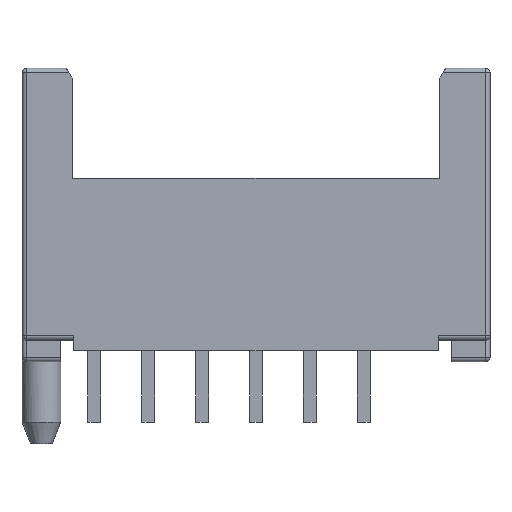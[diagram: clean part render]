
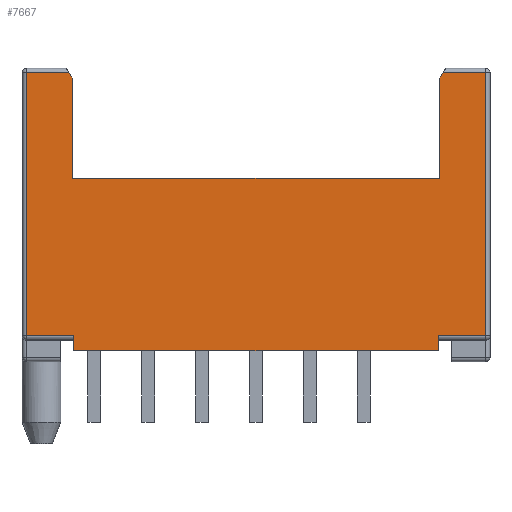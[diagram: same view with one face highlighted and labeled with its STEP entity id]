
A CAD part, front view. The second image highlights one B-rep face of the part: STEP entity #7667.
In plain terms, the highlighted planar face has unit normal (0, -1, 0).
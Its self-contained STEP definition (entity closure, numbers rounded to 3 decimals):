
#725=DIRECTION('',(1.,0.,0.));
#726=VECTOR('',#725,16.9);
#727=CARTESIAN_POINT('',(-8.45,-4.6,-13.1));
#728=LINE('',#727,#726);
#1748=DIRECTION('',(1.,0.,0.));
#1749=VECTOR('',#1748,1.977);
#1750=CARTESIAN_POINT('',(8.673,-4.6,-0.2));
#1751=LINE('',#1750,#1749);
#1752=DIRECTION('',(0.,0.,-1.));
#1753=VECTOR('',#1752,12.2);
#1754=CARTESIAN_POINT('',(10.65,-4.6,-0.2));
#1755=LINE('',#1754,#1753);
#1756=DIRECTION('',(1.,0.,0.));
#1757=VECTOR('',#1756,2.2);
#1758=CARTESIAN_POINT('',(8.45,-4.6,-12.4));
#1759=LINE('',#1758,#1757);
#1760=DIRECTION('',(1.,0.,0.));
#1761=VECTOR('',#1760,2.2);
#1762=CARTESIAN_POINT('',(-10.65,-4.6,-12.4));
#1763=LINE('',#1762,#1761);
#1764=DIRECTION('',(0.,0.,-1.));
#1765=VECTOR('',#1764,12.2);
#1766=CARTESIAN_POINT('',(-10.65,-4.6,-0.2));
#1767=LINE('',#1766,#1765);
#1768=DIRECTION('',(1.,0.,0.));
#1769=VECTOR('',#1768,1.977);
#1770=CARTESIAN_POINT('',(-10.65,-4.6,-0.2));
#1771=LINE('',#1770,#1769);
#1772=DIRECTION('',(-0.5,0.,0.866));
#1773=VECTOR('',#1772,0.346);
#1774=CARTESIAN_POINT('',(-8.5,-4.6,-0.5));
#1775=LINE('',#1774,#1773);
#1776=DIRECTION('',(0.,0.,-1.));
#1777=VECTOR('',#1776,4.6);
#1778=CARTESIAN_POINT('',(-8.5,-4.6,-0.5));
#1779=LINE('',#1778,#1777);
#1780=DIRECTION('',(1.,0.,0.));
#1781=VECTOR('',#1780,17.);
#1782=CARTESIAN_POINT('',(-8.5,-4.6,-5.1));
#1783=LINE('',#1782,#1781);
#1784=DIRECTION('',(0.,0.,-1.));
#1785=VECTOR('',#1784,4.6);
#1786=CARTESIAN_POINT('',(8.5,-4.6,-0.5));
#1787=LINE('',#1786,#1785);
#1788=DIRECTION('',(-0.5,0.,-0.866));
#1789=VECTOR('',#1788,0.346);
#1790=CARTESIAN_POINT('',(8.673,-4.6,-0.2));
#1791=LINE('',#1790,#1789);
#1792=CARTESIAN_POINT('',(8.673,-4.6,-0.2));
#1812=DIRECTION('',(0.,0.,1.));
#1813=VECTOR('',#1812,0.7);
#1814=CARTESIAN_POINT('',(8.45,-4.6,-13.1));
#1815=LINE('',#1814,#1813);
#1816=DIRECTION('',(0.,0.,-1.));
#1817=VECTOR('',#1816,0.7);
#1818=CARTESIAN_POINT('',(-8.45,-4.6,-12.4));
#1819=LINE('',#1818,#1817);
#1838=CARTESIAN_POINT('',(-8.673,-4.6,-0.2));
#4884=CARTESIAN_POINT('',(-8.45,-4.6,-13.1));
#4886=VERTEX_POINT('',#4884);
#4888=CARTESIAN_POINT('',(8.45,-4.6,-13.1));
#4890=VERTEX_POINT('',#4888);
#4968=CARTESIAN_POINT('',(-10.65,-4.6,-12.4));
#4969=CARTESIAN_POINT('',(-8.45,-4.6,-12.4));
#4970=VERTEX_POINT('',#4968);
#4971=VERTEX_POINT('',#4969);
#5052=CARTESIAN_POINT('',(8.45,-4.6,-12.4));
#5053=CARTESIAN_POINT('',(10.65,-4.6,-12.4));
#5054=VERTEX_POINT('',#5052);
#5055=VERTEX_POINT('',#5053);
#5088=CARTESIAN_POINT('',(-8.5,-4.6,-5.1));
#5089=CARTESIAN_POINT('',(8.5,-4.6,-5.1));
#5090=VERTEX_POINT('',#5088);
#5091=VERTEX_POINT('',#5089);
#5160=CARTESIAN_POINT('',(-8.5,-4.6,-0.5));
#5162=VERTEX_POINT('',#5160);
#5198=CARTESIAN_POINT('',(8.5,-4.6,-0.5));
#5199=VERTEX_POINT('',#5198);
#5212=CARTESIAN_POINT('',(10.65,-4.6,-0.2));
#5213=VERTEX_POINT('',#5212);
#5214=VERTEX_POINT('',#1792);
#5217=VERTEX_POINT('',#1838);
#5218=CARTESIAN_POINT('',(-10.65,-4.6,-0.2));
#5219=VERTEX_POINT('',#5218);
#7638=CARTESIAN_POINT('',(-10.85,-4.6,0.));
#7639=DIRECTION('',(0.,-1.,0.));
#7640=DIRECTION('',(1.,0.,0.));
#7641=AXIS2_PLACEMENT_3D('',#7638,#7639,#7640);
#7642=PLANE('',#7641);
#7644=ORIENTED_EDGE('',*,*,#7643,.T.);
#7645=ORIENTED_EDGE('',*,*,#7438,.T.);
#7647=ORIENTED_EDGE('',*,*,#7646,.F.);
#7649=ORIENTED_EDGE('',*,*,#7648,.F.);
#7650=ORIENTED_EDGE('',*,*,#6726,.F.);
#7652=ORIENTED_EDGE('',*,*,#7651,.F.);
#7653=ORIENTED_EDGE('',*,*,#7531,.F.);
#7654=ORIENTED_EDGE('',*,*,#7631,.F.);
#7656=ORIENTED_EDGE('',*,*,#7655,.T.);
#7658=ORIENTED_EDGE('',*,*,#7657,.F.);
#7660=ORIENTED_EDGE('',*,*,#7659,.T.);
#7661=ORIENTED_EDGE('',*,*,#6201,.T.);
#7662=ORIENTED_EDGE('',*,*,#6176,.F.);
#7664=ORIENTED_EDGE('',*,*,#7663,.F.);
#7665=EDGE_LOOP('',(#7644,#7645,#7647,#7649,#7650,#7652,#7653,#7654,#7656,#7658,
#7660,#7661,#7662,#7664));
#7666=FACE_OUTER_BOUND('',#7665,.F.);
#7667=ADVANCED_FACE('',(#7666),#7642,.T.);
#6176=EDGE_CURVE('',#5199,#5091,#1787,.T.);
#6201=EDGE_CURVE('',#5090,#5091,#1783,.T.);
#6726=EDGE_CURVE('',#4886,#4890,#728,.T.);
#7438=EDGE_CURVE('',#5213,#5055,#1755,.T.);
#7531=EDGE_CURVE('',#4970,#4971,#1763,.T.);
#7631=EDGE_CURVE('',#5219,#4970,#1767,.T.);
#7643=EDGE_CURVE('',#5214,#5213,#1751,.T.);
#7646=EDGE_CURVE('',#5054,#5055,#1759,.T.);
#7648=EDGE_CURVE('',#4890,#5054,#1815,.T.);
#7651=EDGE_CURVE('',#4971,#4886,#1819,.T.);
#7655=EDGE_CURVE('',#5219,#5217,#1771,.T.);
#7657=EDGE_CURVE('',#5162,#5217,#1775,.T.);
#7659=EDGE_CURVE('',#5162,#5090,#1779,.T.);
#7663=EDGE_CURVE('',#5214,#5199,#1791,.T.);
